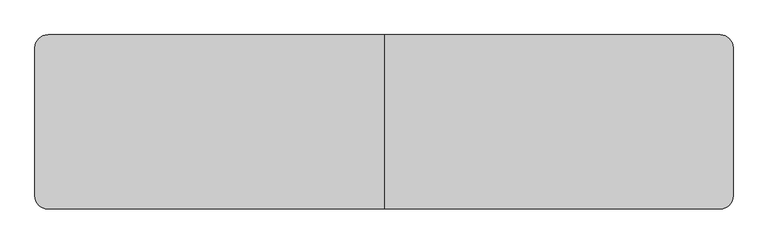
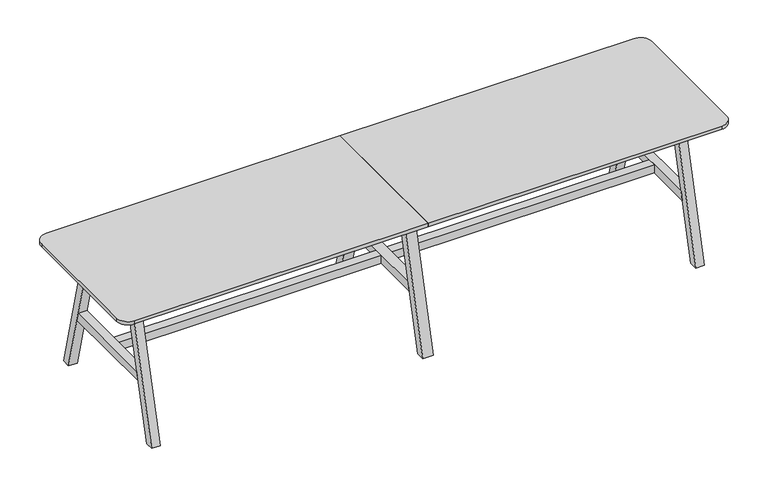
"""IFC4 building model written with IfcOpenShell, lengths in millimetres: furniture geometry, BDG_BossDesign_Tbls_AgentTables6Legs : AGE-DT-6L-3200-800-3D."""

from ifc_helpers import new_model, si_unit, point, frame, frame_2d, origin, place, context, project, spatial, polyline, circle_curve, trimmed, segment, composite_curve, outline, extrude, source, transform, mapped, element, save


def furniture_6b3ee88b(model_context):
    return source(origin(), model_context, "Body", "SweptSolid", [
        extrude(outline(polyline([(400.0, 0.0), (354.9999949, 0.0), (185.5, 660.0), (230.5000051, 660.0), (400.0, 0.0)])), frame((-27.5, 0.0, 0.0), z_axis=(1.0, 0.0, 0.0), x_axis=(0.0, 1.0, 0.0)), (0.0, 0.0, 1.0), 55.0),
        extrude(outline(polyline([(-400.0, 0.0), (-230.5000051, 660.0), (-185.5, 660.0), (-354.9999949, 0.0), (-400.0, 0.0)])), frame((-27.5, 0.0, 0.0), z_axis=(1.0, 0.0, 0.0), x_axis=(0.0, 1.0, 0.0)), (0.0, 0.0, 1.0), 55.0),
        extrude(outline(polyline([(277.9545427, 300.0), (-277.9545427, 300.0), (-266.3977249, 345.0), (266.3977249, 345.0), (277.9545427, 300.0)])), frame((-27.5, 0.0, 0.0), z_axis=(1.0, 0.0, 0.0), x_axis=(0.0, 1.0, 0.0)), (0.0, 0.0, 1.0), 55.0),
        extrude(outline(composite_curve([segment(polyline([(0.0, 400.0), (0.0, -400.0), (-1540.0, -400.0)]), True, "CONTINUOUS"), segment(trimmed(circle_curve(frame_2d((-1540.0, -340.0)), 60.0), [point((-1540.0, -400.0))], [point((-1600.0, -340.0))], False, "CARTESIAN"), True, "CONTINUOUS"), segment(polyline([(-1600.0, -340.0), (-1600.0, 340.0)]), True, "CONTINUOUS"), segment(trimmed(circle_curve(frame_2d((-1540.0, 340.0)), 60.0), [point((-1600.0, 340.0))], [point((-1540.0, 400.0))], False, "CARTESIAN"), True, "CONTINUOUS"), segment(polyline([(-1540.0, 400.0), (0.0, 400.0)]), True, "CONTINUOUS")], self_intersect=False)), frame((0.0, 0.0, 722.0), z_axis=(0.0, 0.0, 1.0), x_axis=(1.0, 0.0, 0.0)), (0.0, 0.0, 1.0), 18.0),
        extrude(outline(polyline([(-266.3977249, 345.0), (266.3977249, 345.0), (277.9545427, 300.0), (-277.9545427, 300.0), (-266.3977249, 345.0)])), frame((1405.0, 0.0, 0.0), z_axis=(1.0, 0.0, 0.0), x_axis=(0.0, 1.0, 0.0)), (0.0, 0.0, 1.0), 45.0),
        extrude(outline(polyline([(400.0, 0.0), (354.9999949, 0.0), (185.5, 660.0), (230.5000051, 660.0), (400.0, 0.0)])), frame((-1450.0, 0.0, 0.0), z_axis=(1.0, 0.0, 0.0), x_axis=(0.0, 1.0, 0.0)), (0.0, 0.0, 1.0), 45.0),
        extrude(outline(polyline([(-400.0, 0.0), (-230.5000051, 660.0), (-185.5, 660.0), (-354.9999949, 0.0), (-400.0, 0.0)])), frame((-1450.0, 0.0, 0.0), z_axis=(1.0, 0.0, 0.0), x_axis=(0.0, 1.0, 0.0)), (0.0, 0.0, 1.0), 45.0),
        extrude(outline(polyline([(-266.3977249, 345.0), (266.3977249, 345.0), (277.9545427, 300.0), (-277.9545427, 300.0), (-266.3977249, 345.0)])), frame((-1450.0, 0.0, 0.0), z_axis=(1.0, 0.0, 0.0), x_axis=(0.0, 1.0, 0.0)), (0.0, 0.0, 1.0), 45.0),
        extrude(outline(polyline([(-226.6006165, 634.973938), (-204.2770691, 722.0), (-179.5, 722.0), (-201.8235474, 634.973938), (-226.6006165, 634.973938)])), frame((-1405.0, 0.0, 0.0), z_axis=(1.0, 0.0, 0.0), x_axis=(0.0, 1.0, 0.0)), (0.0, 0.0, 1.0), 2810.0),
        extrude(outline(polyline([(226.6006165, 634.973938), (201.8235474, 634.973938), (179.5, 722.0), (204.2770691, 722.0), (226.6006165, 634.973938)])), frame((-1405.0, 0.0, 0.0), z_axis=(1.0, 0.0, 0.0), x_axis=(0.0, 1.0, 0.0)), (0.0, 0.0, 1.0), 2810.0),
        extrude(outline(polyline([(399.7999878, 0.0), (354.7999827, 0.0), (185.5, 660.0), (230.5000051, 660.0), (399.7999878, 0.0)])), frame((1405.0, 0.0, 0.0), z_axis=(1.0, 0.0, 0.0), x_axis=(0.0, 1.0, 0.0)), (0.0, 0.0, 1.0), 45.0),
        extrude(outline(polyline([(-399.7999878, 0.0), (-230.5000051, 660.0), (-185.5, 660.0), (-354.7999827, 0.0), (-399.7999878, 0.0)])), frame((1405.0, 0.0, 0.0), z_axis=(1.0, 0.0, 0.0), x_axis=(0.0, 1.0, 0.0)), (0.0, 0.0, 1.0), 45.0),
        extrude(outline(polyline([(-27.5, 22.5000305), (-27.5, -22.5000305), (-1405.0, -22.5000305), (-1405.0, 22.5000305), (-27.5, 22.5000305)])), frame((0.0, 0.0, 300.0), z_axis=(0.0, 0.0, 1.0), x_axis=(1.0, 0.0, 0.0)), (0.0, 0.0, 1.0), 45.0),
        extrude(outline(polyline([(27.5, -22.5000305), (27.5, 22.5000305), (1405.0, 22.5000305), (1405.0, -22.5000305), (27.5, -22.5000305)])), frame((0.0, 0.0, 300.0), z_axis=(0.0, 0.0, 1.0), x_axis=(1.0, 0.0, 0.0)), (0.0, 0.0, 1.0), 45.0),
        extrude(outline(composite_curve([segment(trimmed(circle_curve(frame_2d((1540.0, 340.0)), 60.0), [point((1540.0, 400.0))], [point((1600.0, 340.0))], False, "CARTESIAN"), True, "CONTINUOUS"), segment(polyline([(1600.0, 340.0), (1600.0, -340.0)]), True, "CONTINUOUS"), segment(trimmed(circle_curve(frame_2d((1540.0, -340.0)), 60.0), [point((1600.0, -340.0))], [point((1540.0, -400.0))], False, "CARTESIAN"), True, "CONTINUOUS"), segment(polyline([(1540.0, -400.0), (0.0, -400.0), (0.0, 400.0), (1540.0, 400.0)]), True, "CONTINUOUS")], self_intersect=False)), frame((0.0, 0.0, 722.0), z_axis=(0.0, 0.0, 1.0), x_axis=(1.0, 0.0, 0.0)), (0.0, 0.0, 1.0), 18.0),
    ])


if __name__ == "__main__":
    model = new_model("IFC4")
    model_context = context("Model", 3, world=origin())
    ifc_project = project(units=[si_unit("LENGTHUNIT", "METRE", prefix="MILLI")], contexts=[model_context])
    site = spatial("IfcSite", under=ifc_project)
    building = spatial("IfcBuilding", under=site)
    placement = place(None, origin())
    furniture_shape = furniture_6b3ee88b(model_context)
    element("IfcFurniture", 1, ObjectType="BDG_BossDesign_Tbls_AgentTables6Legs : AGE-DT-6L-3200-800-3D", at=placement, inside=building, context=model_context, shape_type="MappedRepresentation", body=[
        mapped(furniture_shape, transform((0.0, 0.0, 0.0), x_axis=(1.0, 0.0, 0.0), y_axis=(0.0, 1.0, 0.0), z_axis=(0.0, 0.0, 1.0))),
    ])
    save(model, "model.ifc")
